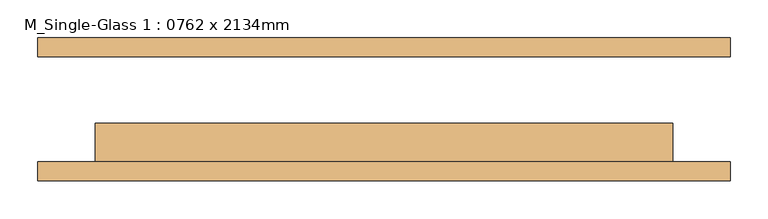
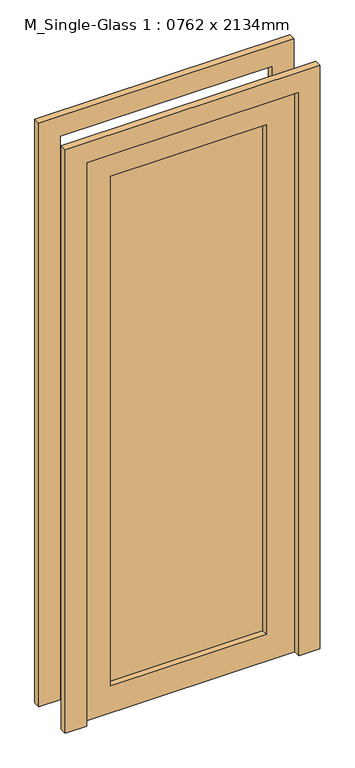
"""IFC4 building model written with IfcOpenShell, lengths in millimetres: door geometry, M_Single-Glass 1 : 0762 x 2134mm."""

from ifc_helpers import new_model, si_unit, frame, origin, place, context, project, spatial, polyline, outline, extrude, source, transform, mapped, element, save


def m_single_glass_1_0762_x_2134mm_f7d00e6c(model_context):
    return source(origin(), model_context, "Body", "SweptSolid", [
        extrude(outline(polyline([(2134.0, 381.0), (0.0, 381.0), (0.0, 457.0), (2210.0, 457.0), (2210.0, -457.0), (0.0, -457.0), (0.0, -381.0), (2134.0, -381.0), (2134.0, 381.0)])), frame((0.0, 69.25, 0.0), z_axis=(0.0, 1.0, 0.0), x_axis=(0.0, 0.0, 1.0)), (0.0, 0.0, 1.0), 25.0),
        extrude(outline(polyline([(2134.0, 381.0), (0.0, 381.0), (0.0, 457.0), (2210.0, 457.0), (2210.0, -457.0), (0.0, -457.0), (0.0, -381.0), (2134.0, -381.0), (2134.0, 381.0)])), frame((0.0, -94.25, 0.0), z_axis=(0.0, 1.0, 0.0), x_axis=(0.0, 0.0, 1.0)), (0.0, 0.0, 1.0), 25.0),
        extrude(outline(polyline([(279.0, -40.675), (279.0, -47.025), (-279.0, -47.025), (-279.0, -40.675), (279.0, -40.675)])), frame((0.0, 0.0, 102.0), z_axis=(0.0, 0.0, 1.0), x_axis=(1.0, 0.0, 0.0)), (0.0, 0.0, 1.0), 1930.0),
        extrude(outline(polyline([(2134.0, 381.0), (2134.0, -381.0), (0.0, -381.0), (0.0, 381.0), (2134.0, 381.0)]), holes=[polyline([(2032.0, -279.0), (2032.0, 279.0), (102.0, 279.0), (102.0, -279.0), (2032.0, -279.0)])]), frame((0.0, -69.25, 0.0), z_axis=(0.0, 1.0, 0.0), x_axis=(0.0, 0.0, 1.0)), (0.0, 0.0, 1.0), 51.0),
    ])


if __name__ == "__main__":
    model = new_model("IFC4")
    model_context = context("Model", 3, world=origin())
    ifc_project = project(units=[si_unit("LENGTHUNIT", "METRE", prefix="MILLI")], contexts=[model_context])
    site = spatial("IfcSite", under=ifc_project)
    building = spatial("IfcBuilding", under=site)
    placement = place(None, origin())
    m_single_glass_1_0762_x_2134mm_shape = m_single_glass_1_0762_x_2134mm_f7d00e6c(model_context)
    element("IfcDoor", 1, ObjectType="M_Single-Glass 1 : 0762 x 2134mm", at=placement, inside=building, context=model_context, shape_type="MappedRepresentation", body=[
        mapped(m_single_glass_1_0762_x_2134mm_shape, transform((0.0, 0.0, 0.0), x_axis=(1.0, 0.0, 0.0), y_axis=(0.0, 1.0, 0.0), z_axis=(0.0, 0.0, 1.0))),
    ])
    save(model, "model.ifc")
